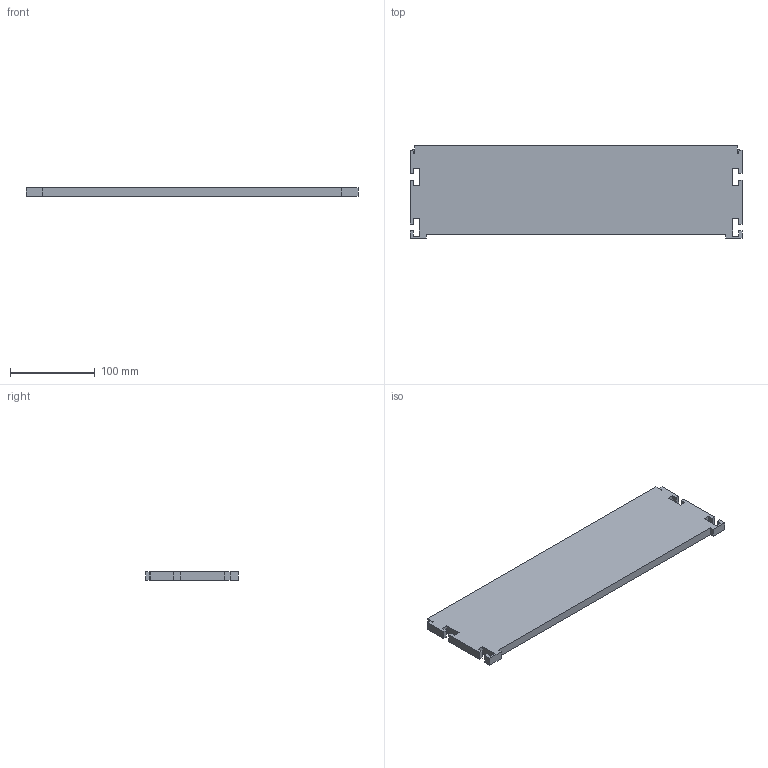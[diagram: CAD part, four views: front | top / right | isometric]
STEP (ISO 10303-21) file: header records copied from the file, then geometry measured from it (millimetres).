
FILE_DESCRIPTION (( 'STEP AP214' ), '1' );
FILE_NAME ('390 baan.STEP', '2017-02-08T12:28:26', ( '' ), ( '' ), 'SwSTEP 2.0', 'SolidWorks 2016', '' );
FILE_SCHEMA (( 'AUTOMOTIVE_DESIGN' ));
Length unit declared in the file: millimetre
Products named in the file (1): 390 baan
Bounding box: 392 x 109 x 10 mm (x, y, z)
Volume: 403261.6 mm3; surface area: 92780.3 mm2
Topology: 1 solids, 1 shells, 54 faces, 156 edges, 104 vertices
Faces by surface type: plane 54
Entity records: 1774 total; most frequent: CARTESIAN_POINT 315, ORIENTED_EDGE 312, DIRECTION 266, EDGE_CURVE 156, VECTOR 156, LINE 156, VERTEX_POINT 104, AXIS2_PLACEMENT_3D 55
